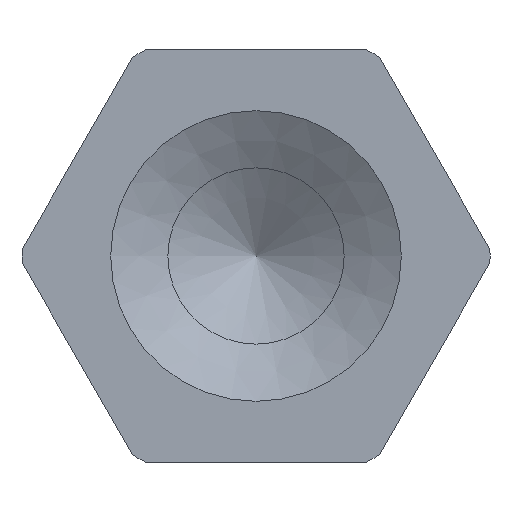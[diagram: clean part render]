
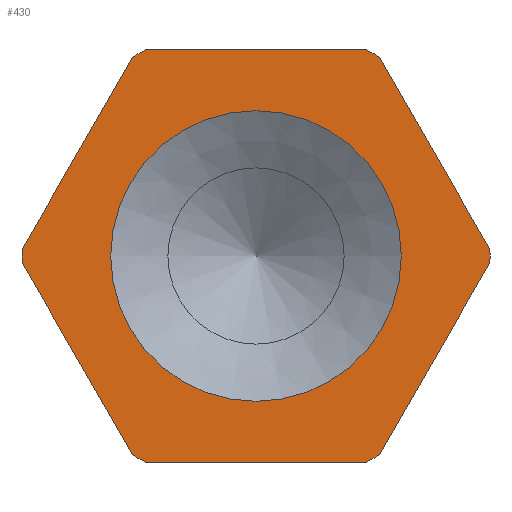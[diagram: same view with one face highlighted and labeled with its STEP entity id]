
A CAD part, left-side view. The second image highlights one B-rep face of the part: STEP entity #430.
In plain terms, the highlighted planar face has unit normal (-1, 0, 0).
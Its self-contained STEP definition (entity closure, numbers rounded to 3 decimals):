
#18=LINE($,#692,#42);
#19=LINE($,#696,#43);
#20=LINE($,#700,#44);
#21=LINE($,#704,#45);
#22=LINE($,#708,#46);
#23=LINE($,#712,#47);
#42=VECTOR($,#552,2.133);
#43=VECTOR($,#555,2.133);
#44=VECTOR($,#558,2.133);
#45=VECTOR($,#561,2.133);
#46=VECTOR($,#564,2.133);
#47=VECTOR($,#567,2.133);
#61=PLANE($,#472);
#90=FACE_BOUND($,#138,.T.);
#91=FACE_BOUND($,#139,.T.);
#138=EDGE_LOOP($,(#310));
#139=EDGE_LOOP($,(#311,#312,#313,#314,#315,#316,#317,#318,#319,#320,#321,
#322));
#176=CIRCLE($,#461,1.397);
#185=CIRCLE($,#473,2.25);
#186=CIRCLE($,#474,2.25);
#187=CIRCLE($,#475,2.25);
#188=CIRCLE($,#476,2.25);
#189=CIRCLE($,#477,2.25);
#190=CIRCLE($,#478,2.25);
#203=VERTEX_POINT($,#657);
#218=VERTEX_POINT($,#690);
#219=VERTEX_POINT($,#691);
#220=VERTEX_POINT($,#693);
#221=VERTEX_POINT($,#695);
#222=VERTEX_POINT($,#697);
#223=VERTEX_POINT($,#699);
#224=VERTEX_POINT($,#701);
#225=VERTEX_POINT($,#703);
#226=VERTEX_POINT($,#705);
#227=VERTEX_POINT($,#707);
#228=VERTEX_POINT($,#709);
#229=VERTEX_POINT($,#711);
#242=EDGE_CURVE($,#203,#203,#176,.T.);
#257=EDGE_CURVE($,#218,#219,#18,.T.);
#258=EDGE_CURVE($,#219,#220,#185,.T.);
#259=EDGE_CURVE($,#220,#221,#19,.T.);
#260=EDGE_CURVE($,#221,#222,#186,.T.);
#261=EDGE_CURVE($,#222,#223,#20,.T.);
#262=EDGE_CURVE($,#223,#224,#187,.T.);
#263=EDGE_CURVE($,#224,#225,#21,.T.);
#264=EDGE_CURVE($,#225,#226,#188,.T.);
#265=EDGE_CURVE($,#226,#227,#22,.T.);
#266=EDGE_CURVE($,#227,#228,#189,.T.);
#267=EDGE_CURVE($,#228,#229,#23,.T.);
#268=EDGE_CURVE($,#229,#218,#190,.T.);
#310=ORIENTED_EDGE($,*,*,#242,.T.);
#311=ORIENTED_EDGE($,*,*,#257,.T.);
#312=ORIENTED_EDGE($,*,*,#258,.T.);
#313=ORIENTED_EDGE($,*,*,#259,.T.);
#314=ORIENTED_EDGE($,*,*,#260,.T.);
#315=ORIENTED_EDGE($,*,*,#261,.T.);
#316=ORIENTED_EDGE($,*,*,#262,.T.);
#317=ORIENTED_EDGE($,*,*,#263,.T.);
#318=ORIENTED_EDGE($,*,*,#264,.T.);
#319=ORIENTED_EDGE($,*,*,#265,.T.);
#320=ORIENTED_EDGE($,*,*,#266,.T.);
#321=ORIENTED_EDGE($,*,*,#267,.T.);
#322=ORIENTED_EDGE($,*,*,#268,.T.);
#430=ADVANCED_FACE($,(#90,#91),#61,.T.);
#461=AXIS2_PLACEMENT_3D($,#658,#522,#523);
#472=AXIS2_PLACEMENT_3D($,#689,#550,#551);
#473=AXIS2_PLACEMENT_3D($,#694,#553,#554);
#474=AXIS2_PLACEMENT_3D($,#698,#556,#557);
#475=AXIS2_PLACEMENT_3D($,#702,#559,#560);
#476=AXIS2_PLACEMENT_3D($,#706,#562,#563);
#477=AXIS2_PLACEMENT_3D($,#710,#565,#566);
#478=AXIS2_PLACEMENT_3D($,#713,#568,#569);
#522=DIRECTION('center_axis',(1.,0.,0.));
#523=DIRECTION('ref_axis',(0.,-1.,0.));
#550=DIRECTION('center_axis',(-1.,0.,0.));
#551=DIRECTION('ref_axis',(0.,0.,1.));
#552=DIRECTION($,(0.,-0.5,-0.866));
#553=DIRECTION('center_axis',(-1.,0.,0.));
#554=DIRECTION('ref_axis',(0.,1.,0.));
#555=DIRECTION($,(0.,-1.,0.));
#556=DIRECTION('center_axis',(-1.,0.,0.));
#557=DIRECTION('ref_axis',(0.,1.,0.));
#558=DIRECTION($,(0.,-0.5,0.866));
#559=DIRECTION('center_axis',(-1.,0.,0.));
#560=DIRECTION('ref_axis',(0.,1.,0.));
#561=DIRECTION($,(0.,0.5,0.866));
#562=DIRECTION('center_axis',(-1.,0.,0.));
#563=DIRECTION('ref_axis',(0.,1.,0.));
#564=DIRECTION($,(0.,1.,0.));
#565=DIRECTION('center_axis',(-1.,0.,0.));
#566=DIRECTION('ref_axis',(0.,1.,0.));
#567=DIRECTION($,(0.,0.5,-0.866));
#568=DIRECTION('center_axis',(-1.,0.,0.));
#569=DIRECTION('ref_axis',(0.,1.,0.));
#657=CARTESIAN_POINT('',(-10.384,1.379,0.));
#658=CARTESIAN_POINT('Origin',(-10.384,2.776,0.));
#689=CARTESIAN_POINT('Origin',(-10.384,3.901,0.));
#690=CARTESIAN_POINT('',(-10.384,5.025,-0.067));
#691=CARTESIAN_POINT('',(-10.384,3.959,-1.914));
#692=CARTESIAN_POINT($,(-10.384,4.994,-0.121));
#693=CARTESIAN_POINT('',(-10.384,3.843,-1.981));
#694=CARTESIAN_POINT('Origin',(-10.384,2.776,0.));
#695=CARTESIAN_POINT('',(-10.384,1.71,-1.981));
#696=CARTESIAN_POINT($,(-10.384,4.061,-1.981));
#697=CARTESIAN_POINT('',(-10.384,1.594,-1.914));
#698=CARTESIAN_POINT('Origin',(-10.384,2.776,0.));
#699=CARTESIAN_POINT('',(-10.384,0.527,-0.067));
#700=CARTESIAN_POINT($,(-10.384,1.562,-1.86));
#701=CARTESIAN_POINT('',(-10.384,0.527,0.067));
#702=CARTESIAN_POINT('Origin',(-10.384,2.776,0.));
#703=CARTESIAN_POINT('',(-10.384,1.594,1.914));
#704=CARTESIAN_POINT($,(-10.384,0.84,0.609));
#705=CARTESIAN_POINT('',(-10.384,1.71,1.981));
#706=CARTESIAN_POINT('Origin',(-10.384,2.776,0.));
#707=CARTESIAN_POINT('',(-10.384,3.843,1.981));
#708=CARTESIAN_POINT($,(-10.384,2.616,1.981));
#709=CARTESIAN_POINT('',(-10.384,3.959,1.914));
#710=CARTESIAN_POINT('Origin',(-10.384,2.776,0.));
#711=CARTESIAN_POINT('',(-10.384,5.025,0.067));
#712=CARTESIAN_POINT($,(-10.384,4.271,1.373));
#713=CARTESIAN_POINT('Origin',(-10.384,2.776,0.));
